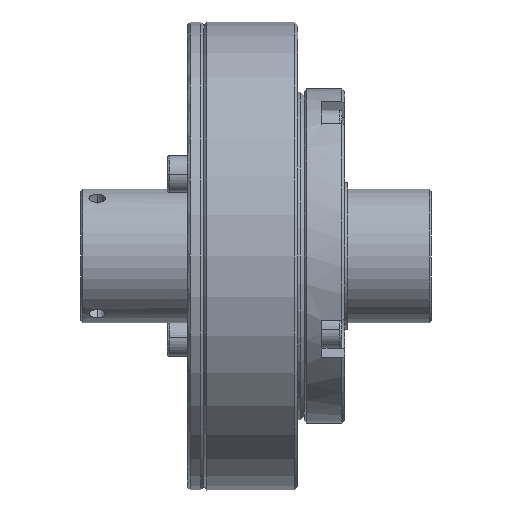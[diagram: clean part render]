
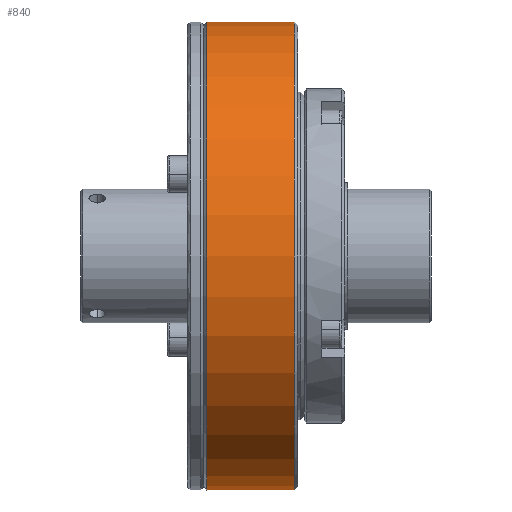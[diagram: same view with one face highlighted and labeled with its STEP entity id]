
A CAD part, front view. The second image highlights one B-rep face of the part: STEP entity #840.
In plain terms, the highlighted cylindrical face has radius 35 mm (diameter 70 mm), a partial arc.
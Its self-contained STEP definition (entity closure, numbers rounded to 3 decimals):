
#840=ADVANCED_FACE('NONE',(#1773),#1774,.T.);
#1773=FACE_OUTER_BOUND('',#3193,.T.);
#1774=CYLINDRICAL_SURFACE('',#3194,35.0);
#3193=EDGE_LOOP('',(#5471,#5472,#5473,#5474));
#3194=AXIS2_PLACEMENT_3D('',#5475,#5476,#5477);
#5471=ORIENTED_EDGE('',*,*,#6063,.F.);
#5472=ORIENTED_EDGE('',*,*,#6792,.T.);
#5473=ORIENTED_EDGE('',*,*,#6064,.T.);
#5474=ORIENTED_EDGE('',*,*,#6805,.F.);
#5475=CARTESIAN_POINT('',(9.45,0.0,0.0));
#5476=DIRECTION('',(-1.0,0.0,0.0));
#5477=DIRECTION('',(0.0,0.0,-1.0));
#6063=EDGE_CURVE('NONE',#7165,#7079,#7167,.T.);
#6064=EDGE_CURVE('NONE',#7164,#7077,#7168,.T.);
#6792=EDGE_CURVE('NONE',#7165,#7164,#8207,.T.);
#6805=EDGE_CURVE('NONE',#7079,#7077,#8220,.T.);
#7077=VERTEX_POINT('NONE',#8924);
#7079=VERTEX_POINT('NONE',#8927);
#7164=VERTEX_POINT('NONE',#9031);
#7165=VERTEX_POINT('NONE',#9032);
#7167=LINE('',#9034,#9035);
#7168=LINE('',#9036,#9037);
#8207=CIRCLE('',#10880,35.0);
#8220=CIRCLE('',#10893,35.);
#8924=CARTESIAN_POINT('',(16.,0.0,-35.));
#8927=CARTESIAN_POINT('',(16.,0.,35.));
#9031=CARTESIAN_POINT('',(2.9,0.0,-35.));
#9032=CARTESIAN_POINT('',(2.9,0.,35.));
#9034=CARTESIAN_POINT('',(9.45,0.,35.0));
#9035=VECTOR('',#11352,1000.0);
#9036=CARTESIAN_POINT('',(9.45,0.0,-35.0));
#9037=VECTOR('',#11353,1000.0);
#10880=AXIS2_PLACEMENT_3D('',#12341,#12342,#12343);
#10893=AXIS2_PLACEMENT_3D('',#12371,#12372,#12373);
#11352=DIRECTION('',(1.0,0.0,0.0));
#11353=DIRECTION('',(1.0,0.0,0.0));
#12341=CARTESIAN_POINT('',(2.9,0.0,0.0));
#12342=DIRECTION('',(1.0,0.0,0.0));
#12343=DIRECTION('',(0.0,0.0,-1.0));
#12371=CARTESIAN_POINT('',(16.,0.0,0.0));
#12372=DIRECTION('',(1.0,0.0,0.));
#12373=DIRECTION('',(0.,0.0,1.0));
